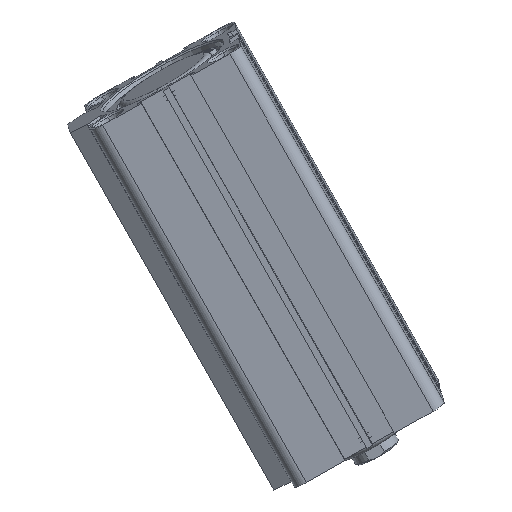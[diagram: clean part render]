
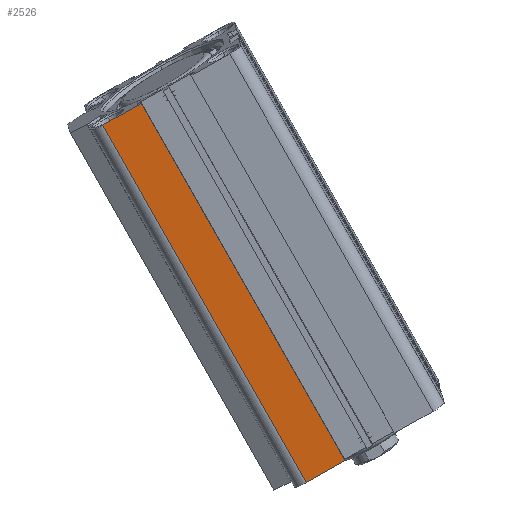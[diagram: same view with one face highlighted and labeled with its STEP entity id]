
A CAD part, left-side view. The second image highlights one B-rep face of the part: STEP entity #2526.
In plain terms, the highlighted planar face has unit normal (-0.987, -0.042, -0.158) as drawn and (-1, 0, 0) by its records, which use the part's own axes.
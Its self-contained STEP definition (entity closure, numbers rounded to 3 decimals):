
#818 = CARTESIAN_POINT ( 'NONE',  ( -26., 8.6, 126. ) ) ;
#1694 = CARTESIAN_POINT ( 'NONE',  ( -26., 22., 0. ) ) ;
#2526 = ADVANCED_FACE ( 'NONE', ( #9365 ), #7622, .T. ) ;
#2611 = VECTOR ( 'NONE', #19525, 1000. ) ;
#3731 = EDGE_CURVE ( 'NONE', #10054, #5641, #16256, .T. ) ;
#3766 = VERTEX_POINT ( 'NONE', #20329 ) ;
#3905 = VECTOR ( 'NONE', #5201, 1000. ) ;
#3967 = EDGE_LOOP ( 'NONE', ( #6590, #4166, #15694, #18136 ) ) ;
#4036 = DIRECTION ( 'NONE',  ( 0., 0., -1. ) ) ;
#4166 = ORIENTED_EDGE ( 'NONE', *, *, #9534, .F. ) ;
#5201 = DIRECTION ( 'NONE',  ( 0., 1., 0. ) ) ;
#5641 = VERTEX_POINT ( 'NONE', #1694 ) ;
#6247 = LINE ( 'NONE', #818, #20319 ) ;
#6487 = CARTESIAN_POINT ( 'NONE',  ( -26., 8.6, 0. ) ) ;
#6590 = ORIENTED_EDGE ( 'NONE', *, *, #3731, .F. ) ;
#7497 = CARTESIAN_POINT ( 'NONE',  ( -26., 0., 126. ) ) ;
#7622 = PLANE ( 'NONE',  #20273 ) ;
#7973 = DIRECTION ( 'NONE',  ( 0., 0., -1. ) ) ;
#8370 = VERTEX_POINT ( 'NONE', #12698 ) ;
#9074 = DIRECTION ( 'NONE',  ( -1., 0., 0. ) ) ;
#9365 = FACE_OUTER_BOUND ( 'NONE', #3967, .T. ) ;
#9534 = EDGE_CURVE ( 'NONE', #3766, #10054, #6247, .T. ) ;
#10054 = VERTEX_POINT ( 'NONE', #6487 ) ;
#10815 = LINE ( 'NONE', #11549, #3905 ) ;
#11344 = EDGE_CURVE ( 'NONE', #8370, #5641, #12091, .T. ) ;
#11380 = CARTESIAN_POINT ( 'NONE',  ( -26., 0., 0. ) ) ;
#11549 = CARTESIAN_POINT ( 'NONE',  ( -26., 0., 126. ) ) ;
#11748 = VECTOR ( 'NONE', #7973, 1000. ) ;
#12091 = LINE ( 'NONE', #18996, #11748 ) ;
#12698 = CARTESIAN_POINT ( 'NONE',  ( -26., 22., 126. ) ) ;
#15694 = ORIENTED_EDGE ( 'NONE', *, *, #19474, .T. ) ;
#16256 = LINE ( 'NONE', #11380, #2611 ) ;
#18136 = ORIENTED_EDGE ( 'NONE', *, *, #11344, .T. ) ;
#18642 = DIRECTION ( 'NONE',  ( 0., -1., 0. ) ) ;
#18996 = CARTESIAN_POINT ( 'NONE',  ( -26., 22., 126. ) ) ;
#19474 = EDGE_CURVE ( 'NONE', #3766, #8370, #10815, .T. ) ;
#19525 = DIRECTION ( 'NONE',  ( 0., 1., 0. ) ) ;
#20273 = AXIS2_PLACEMENT_3D ( 'NONE', #7497, #9074, #18642 ) ;
#20319 = VECTOR ( 'NONE', #4036, 1000. ) ;
#20329 = CARTESIAN_POINT ( 'NONE',  ( -26., 8.6, 126. ) ) ;
